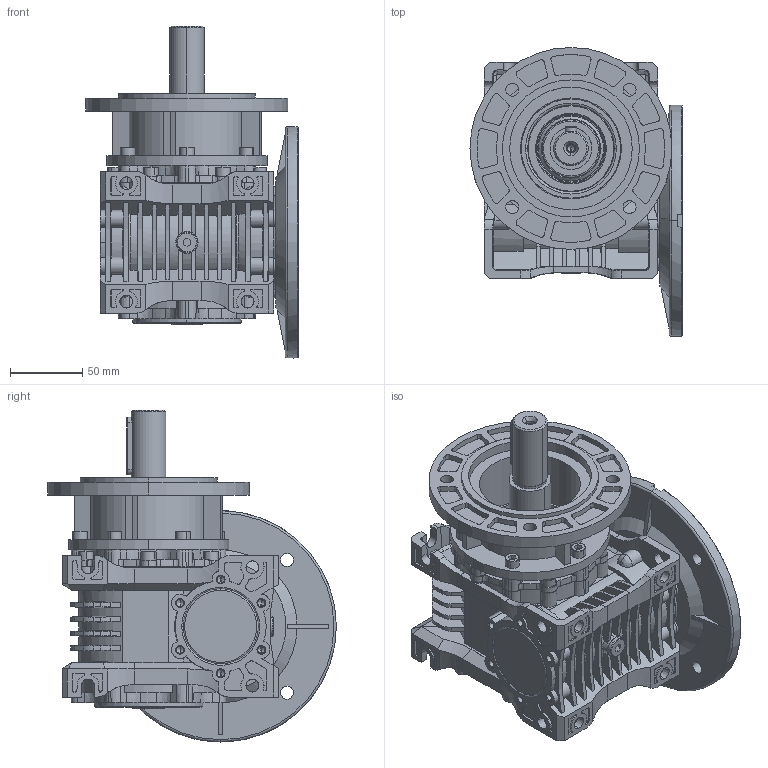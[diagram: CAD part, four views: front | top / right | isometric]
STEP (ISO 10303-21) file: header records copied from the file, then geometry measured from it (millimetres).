
FILE_DESCRIPTION (( 'STEP AP203' ), '1' );
FILE_NAME ('MR-50_160-14-K140_2-WJ_2-3D.STEP', '2022-09-26T12:23:50', ( '' ), ( '' ), 'SwSTEP 2.0', 'SolidWorks 2022', '' );
FILE_SCHEMA (( 'CONFIG_CONTROL_DESIGN' ));
Products named in the file (1): MR-50_160-14-K140_2-WJ_2-3D
Bounding box: 147 x 200.22 x 230.15 mm (x, y, z)
Volume: 1527939.8 mm3; surface area: 309618.2 mm2
Topology: 1 solids, 57 shells, 3053 faces, 8054 edges, 5168 vertices
Faces by surface type: plane 1270, cone 1047, cylinder 547, torus 104, bspline 85
Entity records: 100097 total; most frequent: CARTESIAN_POINT 25321, ORIENTED_EDGE 15932, DIRECTION 15638, EDGE_CURVE 7966, AXIS2_PLACEMENT_3D 5908, VERTEX_POINT 5168, VECTOR 3822, LINE 3822
